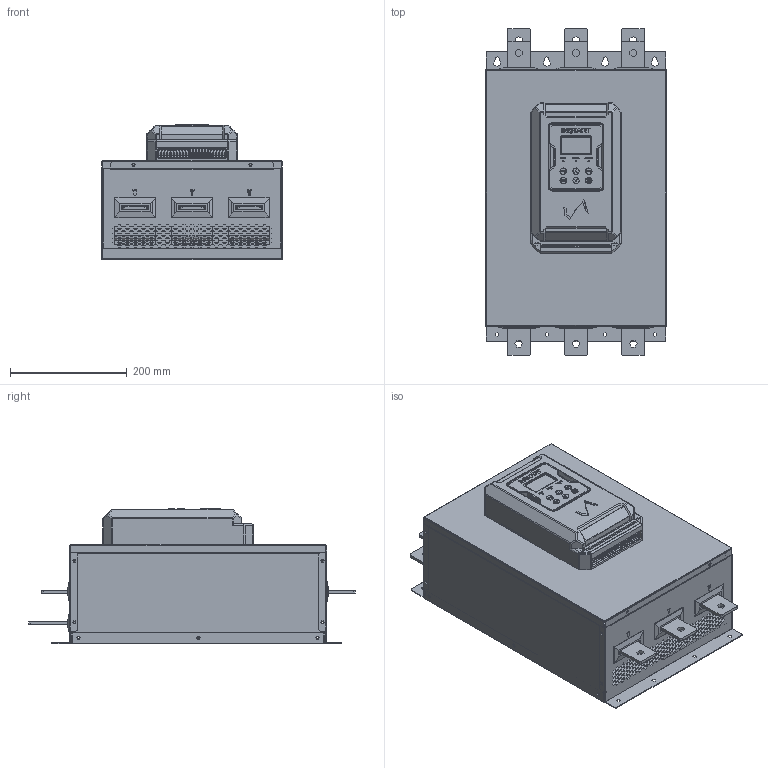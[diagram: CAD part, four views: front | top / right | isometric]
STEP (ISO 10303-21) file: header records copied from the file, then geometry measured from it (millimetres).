
FILE_DESCRIPTION (( 'STEP AP203' ), '1' );
FILE_NAME ('Óñòðîéñòâî ïëàâíîãî ïóñêà _ SSIP-250_500-04.STEP', '2025-03-17T09:11:32', ( '' ), ( '' ), 'SwSTEP 2.0', 'SolidWorks 2021', '' );
FILE_SCHEMA (( 'CONFIG_CONTROL_DESIGN' ));
Length unit declared in the file: millimetre
Products named in the file (65): Äèîäíûé ìîñò GBU816; MA2.5-H5.08_12P; ﾒ瀨瑣ⅱ 055T4; Äèñïëåé LM6029ACW ñ êîííåêòîðîì 16P; MB2.5-VC5.08_10P; Êàòóøêà äðîññåëÿ; Êîííåêòîð PLS (DS1021)_16P; Ñòåíêà çàäíÿÿ 8ZR.024.363; ﾒ瀨瑣ⅱ ZR-022T2; MA2.5-H5.08 ﾁ; MB2.5-VC5.08 ﾖ; Ðàäèàòîð òðàíçèñòîðà SRX-2316-30 (Ø23Ã16Â30); Èçîëÿòîð øèííûé; Èçîëÿòîð 8ZR.750.211; Îñíîâà ïëàòû óïðàâëåíèÿ R7; Äðîññåëü UTNÐ; Ôàëüøïàíåëü R7C-Ð_SSIP; Êîííåêòîð XH2.54_4A; Êîííåêòîð TJC2_1A; Ñòåíêà ïðàâàÿ 8ZR.050.370; MB2.5-VC5.08 ﾋ; Êîíäåíñàòîð ýëåêòðîëèòè÷åñêèé Ô10 H20 k5 _ 470ìêô 35Â; Êîíäåíñàòîð ýëåêòðîëèòè÷åñêèé Ô22.3 H32 k10 _ 22ìêô 400Â; Êîííåêòîð PLS (DS1021)_4P; Ëèöåâàÿ ïàíåëü 8ZR.314.363; Øàéáà ïðóæèííàÿ DIN 127 (A)_Œ3; Êëàâèàòóðà ïàíåëè óïðàâëåíèÿ R7C-S_SSIP; Ëàìïà ñâåòîäèîäíàÿ_‡¥«¥­ ï; 嵙縺 8ZR.580.367 UVW; Êðûøêà ïàíåëè óïðàâëåíèÿ R7C-C; Êîíäåíñàòîð ýëåêòðîëèòè÷åñêèé Ô12.5 H25 k5 _ 1000ìêô 35Â; Çàãëóøêà R7BÀ-XA; 署赅 8ZR.050.367; MA2.5-H5.08_10P; Êîííåêòîð VH3.96_5A; 扱闀罻 12x12x10; Âèíò DIN 7985 PH_Œ3å10; MB2.5-VC5.08 ﾏ; Óçåë óïðàâëåíèÿ R7C_SSIP; Ëàìïà ñâåòîäèîäíàÿ_Šà á­ ï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
Assembly tree (137 placements, depth 6):
  Óñòðîéñòâî ïëàâíîãî ïóñêà _ SSIP-250_500-04
    扻豵鵨 R7B-E630
      Ñòåíêà çàäíÿÿ 8ZR.024.363
      Ñòåíêà ëåâàÿ 8ZR.050.369
      Ñòåíêà ïðàâàÿ 8ZR.050.370
      署赅 8ZR.050.367
      Äíèùå 8ZR.050.368
      Ëèöåâàÿ ïàíåëü 8ZR.314.363
    Èçîëÿòîð øèííûé  x9
    Óçåë óïðàâëåíèÿ R7C_SSIP
      Ëèöåâàÿ ïàíåëü R7C-B
      Ïëàòà óïðàâëåíèÿ R7
        Îñíîâà ïëàòû óïðàâëåíèÿ R7
        Êîííåêòîð VH3.96_5A  x3
        Êîííåêòîð XH2.54_4A
        Êîííåêòîð XH2.54_2A  x5
        Êîííåêòîð VH3.96_2A  x4
        MB2.5-VC5.08_10P
          MB2.5-VC5.08 ﾖ  x8
          MB2.5-VC5.08 ﾏ
          MB2.5-VC5.08 ﾋ
        MB2.5-VC5.08_12P
          MB2.5-VC5.08 ﾖ  x10
          MB2.5-VC5.08 ﾏ
          MB2.5-VC5.08 ﾋ
        ﾒ瀨瑣ⅱ ZR-022T2  x3
        ﾒ瀨瑣ⅱ 055T4
        Êîííåêòîð RJ45 HY52A-8
        Ñèëîâîå ðåëå HF46F_24-HS  x2
        Ñèëîâîå ðåëå 892-1
        Òðàíçèñòîð ñ ðàäèàòîðîì TO-3P
          秮鳧賥嚦闉 TO-3P
          Ðàäèàòîð òðàíçèñòîðà SRX-2316-30 (Ø23Ã16Â30)
          Âèíò DIN 7985 PH_Œ3å10
          Øàéáà ïëîñêàÿ DIN 125 (A)_Œ3
          Øàéáà ïðóæèííàÿ DIN 127 (A)_Œ3
        Êîíäåíñàòîð ýëåêòðîëèòè÷åñêèé Ô10 H20 k5 _ 470ìêô 35Â  x3
        Êîíäåíñàòîð ýëåêòðîëèòè÷åñêèé Ô12.5 H25 k5 _ 1000ìêô 35Â  x2
        Äðîññåëü UTNÐ
          Ñåðäå÷íèê äðîññåëÿ
          Êàòóøêà äðîññåëÿ
        Äèîäíûé ìîñò GBU816
        轉謶嚦闉 10D-15
        MA2.5-H5.08_10P
          MA2.5-H5.08 ﾁ  x2
          MA2.5-H5.08 ﾖ  x8
        MA2.5-H5.08_12P
          MA2.5-H5.08 ﾁ  x2
          MA2.5-H5.08 ﾖ  x10
        Êîííåêòîð PLS (DS1021)_4P
        Êîííåêòîð TJC2_1A
        Êîíäåíñàòîð ýëåêòðîëèòè÷åñêèé Ô22.3 H32 k10 _ 22ìêô 400Â  x2
      Èçîëÿòîð 8ZR.750.211
      Ïàíåëü óïðàâëåíèÿ_SSIP-KP
        Êðûøêà ïàíåëè óïðàâëåíèÿ R7C-C
        Êëàâèàòóðà ïàíåëè óïðàâëåíèÿ R7C-S_SSIP
        Ôàëüøïàíåëü R7C-Ð_SSIP
        Ïëàòà ïàíåëè óïïðàâëåíèÿ R7BC-PFC
          Îñíîâà ïëàòû ïàíåëè óïðàâëåíèÿ
          扱闀罻 12x12x10  x6
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Bounding box: 310 x 560 x 231.6 mm (x, y, z)
Topology: 133 solids, 143 shells, 14266 faces, 37985 edges, 24758 vertices
Faces by surface type: plane 10567, cylinder 2067, bspline 1456, cone 144, sphere 28, torus 4
Entity records: 315405 total; most frequent: CARTESIAN_POINT 106314, ORIENTED_EDGE 43580, DIRECTION 36724, EDGE_CURVE 21790, VECTOR 16620, LINE 16620, VERTEX_POINT 14279, AXIS2_PLACEMENT_3D 10052
